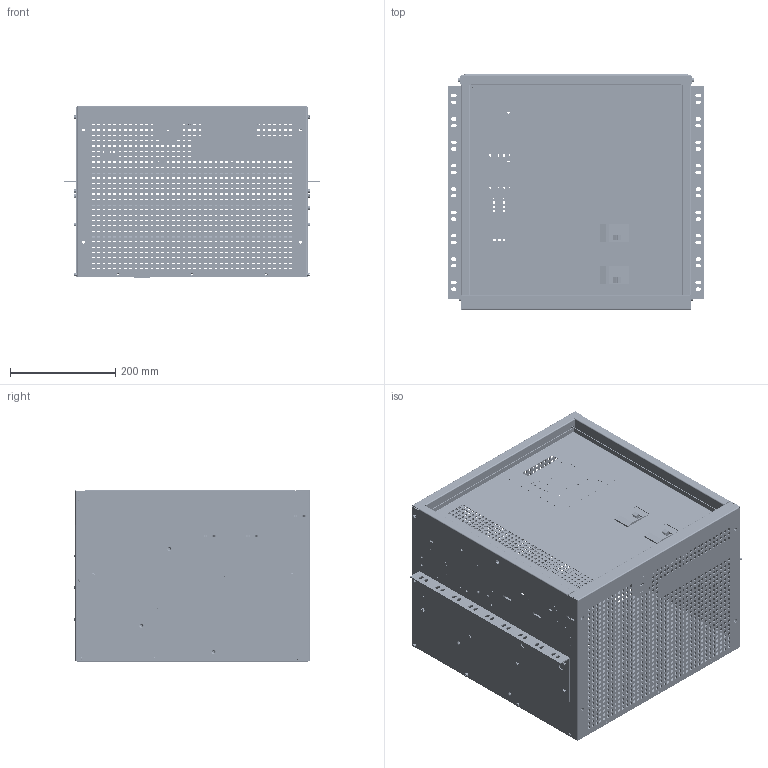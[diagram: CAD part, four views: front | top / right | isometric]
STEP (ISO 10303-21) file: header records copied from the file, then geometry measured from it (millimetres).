
FILE_DESCRIPTION (( 'STEP AP214' ), '1' );
FILE_NAME ('3DCAD-Q1-RACK-MOUNT-STEP_REVA.STEP', '2014-04-03T19:14:21', ( 'barrye' ), ( '' ), 'SwSTEP 2.0', 'SolidWorks 2012', '' );
FILE_SCHEMA (( 'AUTOMOTIVE_DESIGN' ));
Length unit declared in the file: inch
Products named in the file (16): 932029_93882A193; 808561; 82-16-01; 82-05-02; 82-05-01_reinforce-channel-M1; q1_master_door_enclosure_only; 82-04-01_painted; 808560; q1_master_breaker_panel_Breakers only; 702XXX_QOU_702521; 702XXX_QOU; breaker_squared_qou_2_pole_part; 82-02-02_painted; 82-01-02_painted; 3DCAD-Q1-RACK-MOUNT-STEP_REVA
Assembly tree (44 placements, depth 4):
  3DCAD-Q1-RACK-MOUNT-STEP_REVA
    82-01-02_painted
    82-02-02_painted
    q1_master_breaker_panel_Breakers only
      702XXX_QOU
        breaker_squared_qou_2_pole_part
      702XXX_QOU_702521
        breaker_squared_qou_2_pole_part
    q1_master_door_enclosure_only
      808560
      82-04-01_painted
    82-05-02
      82-05-02
      82-05-01_reinforce-channel-M1
    82-16-01  x2
    808561
    932029_93882A193  x28
Bounding box: 488.81 x 448.1 x 328.97 mm (x, y, z)
Volume: 2291850.7 mm3; surface area: 2459132.4 mm2
Topology: 69 solids, 69 shells, 13795 faces, 39741 edges, 26385 vertices
Faces by surface type: plane 11322, bspline 1085, cylinder 1040, cone 256, torus 92
Full cylindrical faces by diameter (mm): 0.076 x1, 1.143 x1, 2.438 x1, 2.896 x6, 2.997 x11, 3.175 x2, 3.749 x3, 3.75 x34, 3.988 x11, 4.14 x5, 4.496 x34, 4.75 x8, 4.775 x2, 4.801 x5, 4.826 x1, 4.978 x11, 5.105 x17, 5.156 x4, 5.385 x7, 5.537 x5, 6.02 x5, 6.502 x4, 6.788 x20, 7.137 x30, 7.545 x14, 7.925 x10, 8.839 x28, 9.525 x10, 9.576 x2, 11.176 x4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
Entity records: 441672 total; most frequent: CARTESIAN_POINT 98843, ORIENTED_EDGE 69604, DIRECTION 58908, EDGE_CURVE 34802, VECTOR 32256, LINE 32256, VERTEX_POINT 23308, EDGE_LOOP 17640
